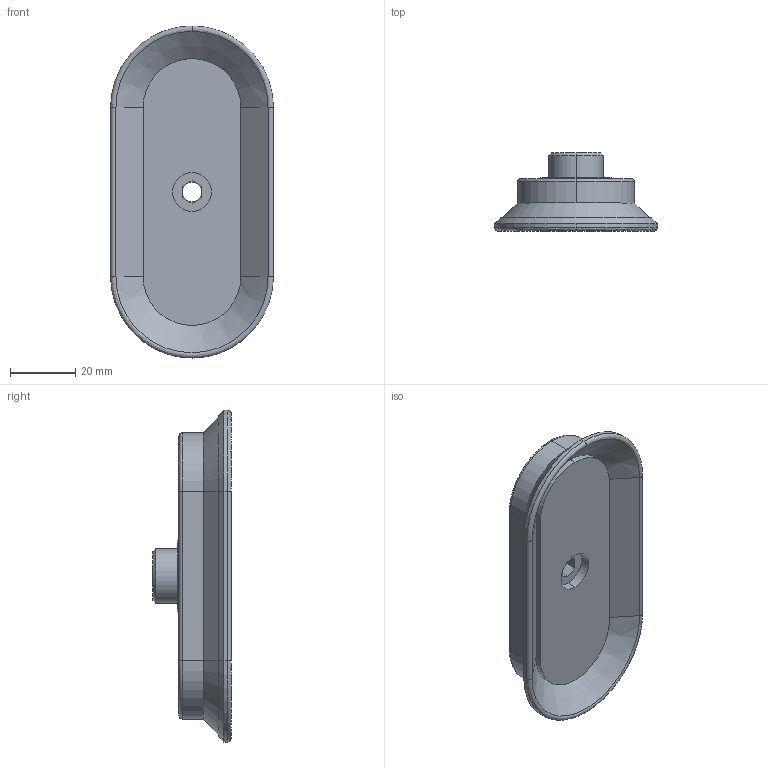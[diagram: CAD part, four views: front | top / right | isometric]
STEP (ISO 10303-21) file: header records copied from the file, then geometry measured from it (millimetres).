
FILE_DESCRIPTION (( 'STEP AP214' ), '1' );
FILE_NAME ('VOFC 50100.STEP', '2019-11-26T01:09:32', ( '微软用户' ), ( '微软中国' ), 'SwSTEP 2.0', 'SolidWorks 2016', '' );
FILE_SCHEMA (( 'AUTOMOTIVE_DESIGN' ));
Length unit declared in the file: millimetre
Products named in the file (1): VOFC 50100
Bounding box: 50 x 24 x 102 mm (x, y, z)
Volume: 37792.3 mm3; surface area: 13571.7 mm2
Topology: 1 solids, 1 shells, 122 faces, 285 edges, 176 vertices
Faces by surface type: plane 65, bspline 23, cylinder 23, cone 11
Entity records: 6752 total; most frequent: CARTESIAN_POINT 2690, ORIENTED_EDGE 570, DIRECTION 513, EDGE_CURVE 285, LINE 183, VECTOR 183, VERTEX_POINT 176, AXIS2_PLACEMENT_3D 165
